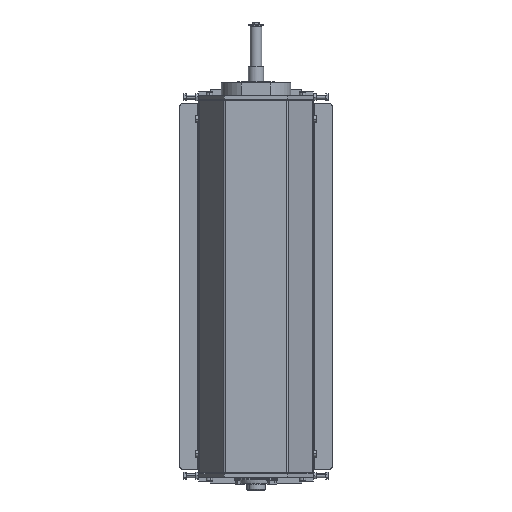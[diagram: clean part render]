
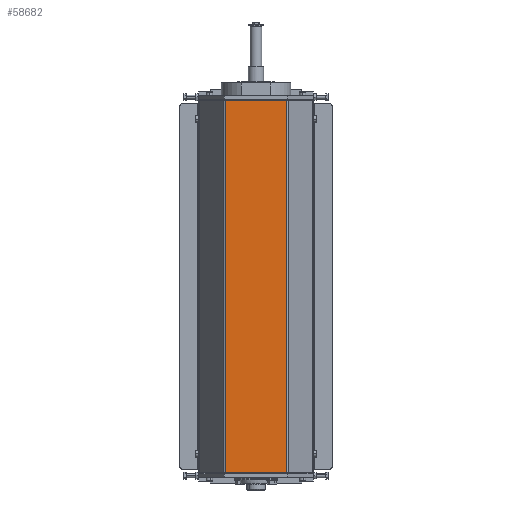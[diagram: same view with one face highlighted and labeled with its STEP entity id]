
A CAD part, front view. The second image highlights one B-rep face of the part: STEP entity #58682.
In plain terms, the highlighted planar face has unit normal (0, -1, 0).
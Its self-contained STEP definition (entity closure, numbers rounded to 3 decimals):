
#692 = CARTESIAN_POINT ( 'NONE',  ( -48.268, 0., 294. ) ) ;
#1619 = ORIENTED_EDGE ( 'NONE', *, *, #35661, .F. ) ;
#1817 = VECTOR ( 'NONE', #38985, 1000. ) ;
#1875 = FACE_OUTER_BOUND ( 'NONE', #63111, .T. ) ;
#2392 = VERTEX_POINT ( 'NONE', #7732 ) ;
#6237 = CARTESIAN_POINT ( 'NONE',  ( -50., 0., 294. ) ) ;
#6669 = CARTESIAN_POINT ( 'NONE',  ( 48.268, 0., -294. ) ) ;
#7732 = CARTESIAN_POINT ( 'NONE',  ( -48.268, 0., 294. ) ) ;
#13651 = VERTEX_POINT ( 'NONE', #40332 ) ;
#15965 = DIRECTION ( 'NONE',  ( 0., 1., 0. ) ) ;
#16178 = DIRECTION ( 'NONE',  ( 0., 0., 1. ) ) ;
#17817 = EDGE_CURVE ( 'NONE', #2392, #62110, #51082, .T. ) ;
#20109 = CARTESIAN_POINT ( 'NONE',  ( -48.268, 0., -294. ) ) ;
#20277 = CARTESIAN_POINT ( 'NONE',  ( 48.268, 0., 294. ) ) ;
#20592 = EDGE_CURVE ( 'NONE', #62110, #48283, #41382, .T. ) ;
#24197 = DIRECTION ( 'NONE',  ( 1., 0., 0. ) ) ;
#25221 = AXIS2_PLACEMENT_3D ( 'NONE', #6237, #15965, #16178 ) ;
#25503 = LINE ( 'NONE', #58944, #38668 ) ;
#33364 = LINE ( 'NONE', #20277, #56764 ) ;
#35327 = DIRECTION ( 'NONE',  ( 0., 0., -1. ) ) ;
#35661 = EDGE_CURVE ( 'NONE', #13651, #48283, #33364, .T. ) ;
#38668 = VECTOR ( 'NONE', #24197, 1000. ) ;
#38771 = CARTESIAN_POINT ( 'NONE',  ( -50., 0., -294. ) ) ;
#38985 = DIRECTION ( 'NONE',  ( 1., 0., 0. ) ) ;
#39386 = VECTOR ( 'NONE', #35327, 1000. ) ;
#40332 = CARTESIAN_POINT ( 'NONE',  ( 48.268, 0., 294. ) ) ;
#41061 = ORIENTED_EDGE ( 'NONE', *, *, #20592, .T. ) ;
#41382 = LINE ( 'NONE', #38771, #1817 ) ;
#41494 = ORIENTED_EDGE ( 'NONE', *, *, #62541, .F. ) ;
#45899 = PLANE ( 'NONE',  #25221 ) ;
#48283 = VERTEX_POINT ( 'NONE', #6669 ) ;
#51082 = LINE ( 'NONE', #692, #39386 ) ;
#51807 = ORIENTED_EDGE ( 'NONE', *, *, #17817, .T. ) ;
#55074 = DIRECTION ( 'NONE',  ( 0., 0., -1. ) ) ;
#56764 = VECTOR ( 'NONE', #55074, 1000. ) ;
#58682 = ADVANCED_FACE ( 'NONE', ( #1875 ), #45899, .F. ) ;
#58944 = CARTESIAN_POINT ( 'NONE',  ( -50., 0., 294. ) ) ;
#62110 = VERTEX_POINT ( 'NONE', #20109 ) ;
#62541 = EDGE_CURVE ( 'NONE', #2392, #13651, #25503, .T. ) ;
#63111 = EDGE_LOOP ( 'NONE', ( #41061, #1619, #41494, #51807 ) ) ;
